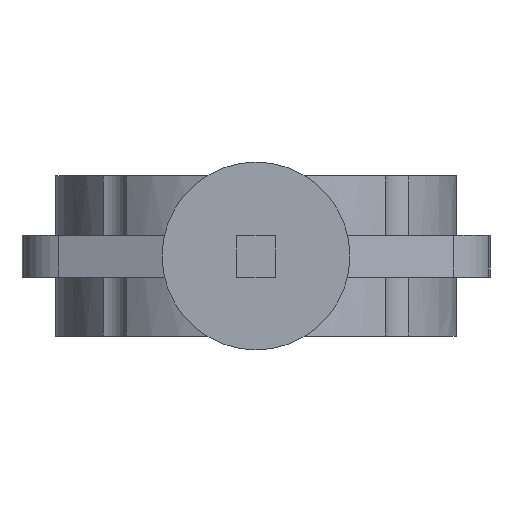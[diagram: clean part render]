
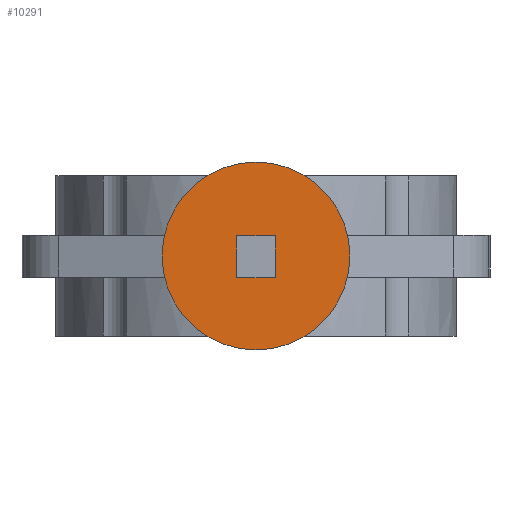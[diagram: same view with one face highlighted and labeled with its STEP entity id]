
A CAD part, front view. The second image highlights one B-rep face of the part: STEP entity #10291.
In plain terms, the highlighted planar face has unit normal (0, -1, 0).
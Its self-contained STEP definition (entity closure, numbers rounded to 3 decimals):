
#10241=CARTESIAN_POINT('',(27.,-134.498,23.));
#10242=VERTEX_POINT('',#10241);
#10258=CARTESIAN_POINT('',(-27.,-134.498,23.));
#10259=VERTEX_POINT('',#10258);
#10266=CARTESIAN_POINT('',(0.,-134.498,23.));
#10267=DIRECTION('',(0.0,-1.0,0.0));
#10268=DIRECTION('',(1.0,0.0,0.0));
#10269=AXIS2_PLACEMENT_3D('',#10266,#10267,#10268);
#10270=CIRCLE('',#10269,27.0);
#10271=EDGE_CURVE('',#10242,#10259,#10270,.T.);
#10276=CARTESIAN_POINT('',(0.,-134.498,23.));
#10277=DIRECTION('',(0.0,1.0,0.0));
#10278=DIRECTION('',(1.0,0.0,0.0));
#10279=AXIS2_PLACEMENT_3D('',#10276,#10277,#10278);
#10280=PLANE('',#10279);
#10281=CARTESIAN_POINT('',(0.,-134.498,23.));
#10282=DIRECTION('',(0.0,-1.0,0.0));
#10283=DIRECTION('',(1.0,0.0,0.0));
#10284=AXIS2_PLACEMENT_3D('',#10281,#10282,#10283);
#10285=CIRCLE('',#10284,27.0);
#10286=EDGE_CURVE('',#10259,#10242,#10285,.T.);
#10287=ORIENTED_EDGE('',*,*,#10286,.T.);
#10288=ORIENTED_EDGE('',*,*,#10271,.T.);
#10289=EDGE_LOOP('',(#10287,#10288));
#10290=FACE_OUTER_BOUND('',#10289,.T.);
#10291=ADVANCED_FACE('',(#10290),#10280,.F.);
